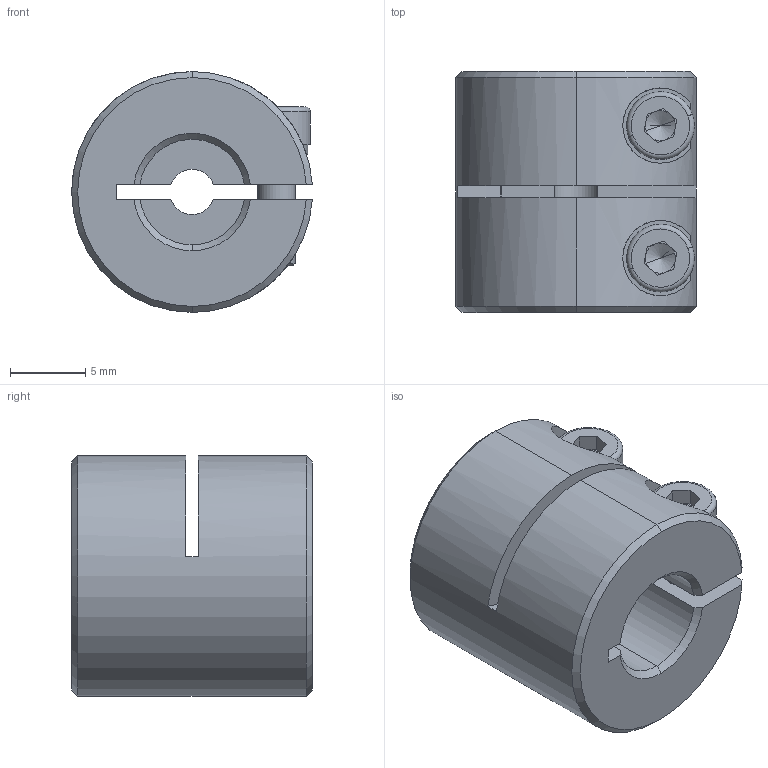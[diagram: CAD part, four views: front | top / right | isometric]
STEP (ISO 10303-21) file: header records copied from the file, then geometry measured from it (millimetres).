
FILE_DESCRIPTION (( 'STEP AP203' ), '1' );
FILE_NAME ('LL-B-D16L16-3-7.STEP', '2021-11-03T02:33:26', ( '' ), ( '' ), 'SwSTEP 2.0', 'SolidWorks 2018', '' );
FILE_SCHEMA (( 'CONFIG_CONTROL_DESIGN' ));
Length unit declared in the file: millimetre
Products named in the file (1): LL-B-D16L16-3-7
Bounding box: 15.98 x 16 x 16 mm (x, y, z)
Volume: 2643.3 mm3; surface area: 2039.2 mm2
Topology: 1 solids, 1 shells, 121 faces, 313 edges, 196 vertices
Faces by surface type: plane 52, cylinder 45, cone 20, torus 4
Entity records: 3956 total; most frequent: CARTESIAN_POINT 887, DIRECTION 653, ORIENTED_EDGE 618, EDGE_CURVE 309, AXIS2_PLACEMENT_3D 254, VERTEX_POINT 196, LINE 145, VECTOR 145
